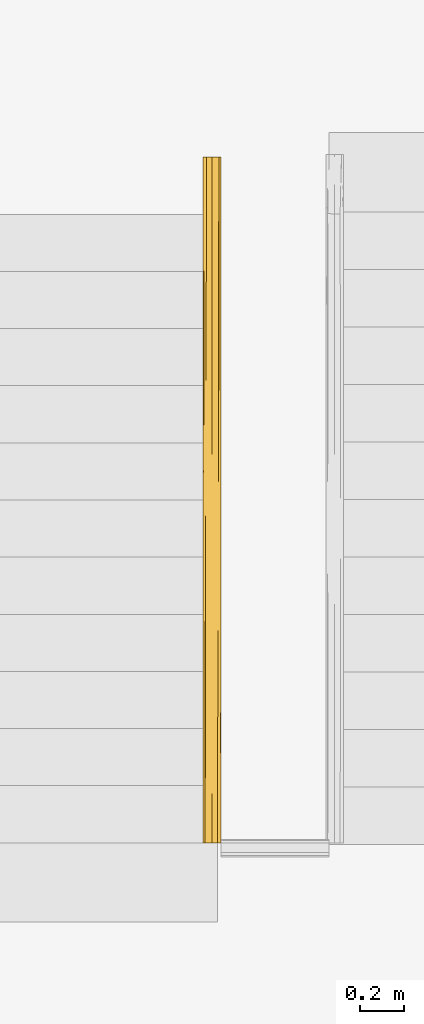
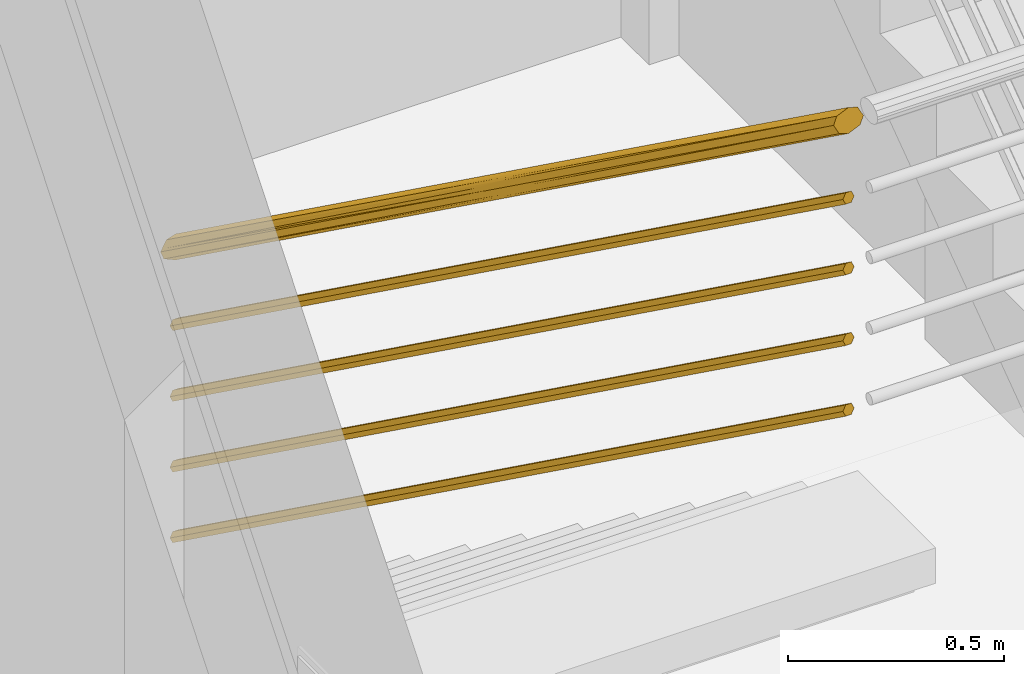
# One storey, part 253 of 302: 1 railing, 1 element without a shape of its own.
"""IFC2X3 building model written with IfcOpenShell, lengths in metres."""

from ifc_helpers import new_model, entity, si_unit, converted_unit, derived_unit, direction, frame, origin, place, context, subcontext, project, spatial, faceted_brep, element, aggregate, save


model = new_model("IFC2X3")

# Units and contexts
model_context = context("Model", 3, precision=1e-05, world=origin(), true_north=direction((6.12303176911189e-17, 1.0)))
body_context = subcontext(model_context, "Body", "Model", "MODEL_VIEW")
ifc_project = project(units=[si_unit("LENGTHUNIT", "METRE"), si_unit("AREAUNIT", "SQUARE_METRE"), si_unit("VOLUMEUNIT", "CUBIC_METRE"), converted_unit("PLANEANGLEUNIT", "DEGREE", entity("IfcRatioMeasure", 0.0174532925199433), si_unit("PLANEANGLEUNIT", "RADIAN"), dimensions=[0, 0, 0, 0, 0, 0, 0]), si_unit("MASSUNIT", "GRAM", prefix="KILO"), derived_unit("MASSDENSITYUNIT", [(si_unit("MASSUNIT", "GRAM", prefix="KILO"), 1), (si_unit("LENGTHUNIT", "METRE"), -3)]), derived_unit("MOMENTOFINERTIAUNIT", [(si_unit("LENGTHUNIT", "METRE"), 4)]), si_unit("TIMEUNIT", "SECOND"), si_unit("FREQUENCYUNIT", "HERTZ"), si_unit("THERMODYNAMICTEMPERATUREUNIT", "DEGREE_CELSIUS"), derived_unit("THERMALTRANSMITTANCEUNIT", [(si_unit("MASSUNIT", "GRAM", prefix="KILO"), 1), (si_unit("THERMODYNAMICTEMPERATUREUNIT", "KELVIN"), -1), (si_unit("TIMEUNIT", "SECOND"), -3)]), derived_unit("VOLUMETRICFLOWRATEUNIT", [(si_unit("LENGTHUNIT", "METRE"), 3), (si_unit("TIMEUNIT", "SECOND"), -1)]), si_unit("ELECTRICCURRENTUNIT", "AMPERE"), si_unit("ELECTRICVOLTAGEUNIT", "VOLT"), si_unit("POWERUNIT", "WATT"), si_unit("FORCEUNIT", "NEWTON", prefix="KILO"), si_unit("ILLUMINANCEUNIT", "LUX"), si_unit("LUMINOUSFLUXUNIT", "LUMEN"), si_unit("LUMINOUSINTENSITYUNIT", "CANDELA"), derived_unit("USERDEFINED", [(si_unit("MASSUNIT", "GRAM", prefix="KILO"), -1), (si_unit("LENGTHUNIT", "METRE"), -2), (si_unit("TIMEUNIT", "SECOND"), 3), (si_unit("LUMINOUSFLUXUNIT", "LUMEN"), 1)]), derived_unit("LINEARVELOCITYUNIT", [(si_unit("LENGTHUNIT", "METRE"), 1), (si_unit("TIMEUNIT", "SECOND"), -1)]), si_unit("PRESSUREUNIT", "PASCAL"), derived_unit("USERDEFINED", [(si_unit("LENGTHUNIT", "METRE"), -2), (si_unit("MASSUNIT", "GRAM", prefix="KILO"), 1), (si_unit("TIMEUNIT", "SECOND"), -2)]), derived_unit("LINEARFORCEUNIT", [(si_unit("MASSUNIT", "GRAM", prefix="KILO"), 1), (si_unit("LENGTHUNIT", "METRE"), 1), (si_unit("TIMEUNIT", "SECOND"), -2), (si_unit("LENGTHUNIT", "METRE"), -1)]), derived_unit("PLANARFORCEUNIT", [(si_unit("MASSUNIT", "GRAM", prefix="KILO"), 1), (si_unit("LENGTHUNIT", "METRE"), 1), (si_unit("TIMEUNIT", "SECOND"), -2), (si_unit("LENGTHUNIT", "METRE"), -2)])], contexts=[model_context])

# Site, building, storey
site_placement = place(None, origin())
site = spatial("IfcSite", under=ifc_project, at=site_placement, Name="Default", CompositionType="ELEMENT")
building_placement = place(site_placement, origin())
building = spatial("IfcBuilding", under=site, at=building_placement, CompositionType="ELEMENT")
storey_placement = place(building_placement, frame((0.0, 0.0, -1.3)))
storey = spatial("IfcBuildingStorey", under=building, at=storey_placement, Name="00_EG", CompositionType="ELEMENT", Elevation=-1.3)

# Stair, railing
stair_placement = place(storey_placement, origin())
stair = element("IfcStair", 1, at=stair_placement, inside=storey, Name="Fertigbetontreppe:Treppe", ObjectType="Fertigbetontreppe:Precast Stair", ShapeType="STRAIGHT_RUN_STAIR")
railing_placement = place(stair_placement, frame((-264.984147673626, 16.748088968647, 1.43141747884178)))
railing = element("IfcRailing", 2, at=railing_placement, Name="Geländer:E2_6_Railing_metal_1000", ObjectType="Geländer:E2_6_Railing_metal_1000", PredefinedType="NOTDEFINED", context=body_context, shape_type="Brep", body=[
    faceted_brep([(0.0665348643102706, 3.12000000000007, 0.809664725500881), (0.05406506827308, 3.12000000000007, 0.805629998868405), (0.0484624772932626, 3.12000000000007, 0.803817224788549), (0.0415952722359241, 3.12000000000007, 0.801595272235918), (0.0337769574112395, 3.12000000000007, 0.805076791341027), (0.0259586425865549, 3.12000000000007, 0.808558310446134), (0.018140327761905, 3.12000000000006, 0.812039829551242), (0.0103220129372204, 3.12000000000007, 0.815521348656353), (0.00595864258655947, 3.12000000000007, 0.827051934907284), (0.00399820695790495, 3.12000000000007, 0.832232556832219), (0.00159527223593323, 3.12000000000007, 0.838582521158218), (0.005360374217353, 3.12000000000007, 0.845811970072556), (0.00912547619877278, 3.12000000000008, 0.853041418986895), (0.0128905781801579, 3.12000000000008, 0.860270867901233), (0.0166556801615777, 3.12000000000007, 0.867500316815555), (0.0291254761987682, 3.12000000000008, 0.871535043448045), (0.0347280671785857, 3.12000000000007, 0.873347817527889), (0.0415952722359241, 3.12000000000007, 0.875569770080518), (0.0494135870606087, 3.12000000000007, 0.872088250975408), (0.0572319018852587, 3.12000000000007, 0.868606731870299), (0.0650502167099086, 3.12000000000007, 0.865125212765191), (0.0728685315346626, 3.12000000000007, 0.861643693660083), (0.0772319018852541, 3.12000000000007, 0.85011310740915), (0.079192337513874, 3.12000000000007, 0.844932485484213), (0.081595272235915, 3.12000000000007, 0.838582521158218), (0.0778301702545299, 3.12000000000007, 0.831353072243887), (0.0740650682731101, 3.12000000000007, 0.824123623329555), (0.0702999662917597, 3.12000000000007, 0.816894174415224), (0.0166556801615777, 0.0, 3.05966472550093), (0.0291254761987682, 0.0, 3.05562999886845), (0.0415952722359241, 0.0, 3.05159527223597), (0.0494135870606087, 0.0, 3.05507679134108), (0.0572319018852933, 0.0, 3.05855831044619), (0.0650502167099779, 0.0, 3.0620398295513), (0.0728685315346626, 0.0, 3.0655213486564), (0.0772319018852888, 0.0, 3.07705193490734), (0.081595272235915, 0.0, 3.08858252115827), (0.0778301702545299, 0.0, 3.0958119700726), (0.0740650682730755, 0.0, 3.10304141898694), (0.0702999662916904, 0.0, 3.11027086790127), (0.0665348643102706, 0.0, 3.1175003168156), (0.05406506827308, 0.0, 3.12153504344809), (0.0415952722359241, 0.0, 3.12556977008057), (0.0337769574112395, 0.0, 3.12208825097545), (0.0259586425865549, 0.0, 3.11860673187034), (0.0181403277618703, 0.0, 3.11512521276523), (0.0103220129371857, 0.0, 3.11164369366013), (0.00595864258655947, 0.0, 3.10011310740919), (0.00159527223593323, 0.0, 3.08858252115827), (0.005360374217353, 0.0, 3.08135307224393), (0.00912547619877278, 0.0, 3.0741236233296), (0.0128905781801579, 0.0, 3.06689417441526), (0.0755027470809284, 1.55105130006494, 1.95041428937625), (0.0793461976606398, 1.69154379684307, 1.85649145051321), (0.081595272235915, 1.62045552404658, 1.91998478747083), (0.081595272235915, 1.49954877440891, 2.00717715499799), (0.0629715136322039, 1.55832414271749, 1.93352841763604), (0.0556966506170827, 1.48225344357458, 1.98503712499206), (0.0698845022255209, 1.55820923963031, 1.93872458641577), (0.0487595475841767, 1.41323270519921, 2.03303516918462), (0.0415952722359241, 1.49954983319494, 1.97018914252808), (0.0415952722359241, 1.62045552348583, 1.88299753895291), (0.0283901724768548, 1.69083498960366, 1.83431675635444), (0.0203857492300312, 1.54913990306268, 1.94005472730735), (0.0133159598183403, 1.56074565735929, 1.93688626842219), (0.00416749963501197, 1.48433946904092, 2.00509586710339), (0.00778723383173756, 1.56123681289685, 1.94292280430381), (0.00224337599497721, 1.41636359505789, 2.06053525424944), (0.00159527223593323, 1.49953972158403, 2.00718368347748), (0.00159527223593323, 1.62045552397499, 1.91998478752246), (0.0038355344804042, 1.6924923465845, 1.88023962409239), (0.00768123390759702, 1.55043223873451, 1.99009426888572), (0.0133007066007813, 1.56178840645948, 1.98843721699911), (0.0201983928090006, 1.56167013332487, 1.9936286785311), (0.0274586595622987, 1.48736068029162, 2.05056697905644), (0.034411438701, 1.42065233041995, 2.10045948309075), (0.0415952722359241, 1.49954679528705, 2.04416583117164), (0.0415952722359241, 1.6204555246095, 1.95697203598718), (0.0628150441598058, 1.55234848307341, 2.00045410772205), (0.0548125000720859, 1.69320962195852, 1.90242757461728), (0.0753924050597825, 1.55877075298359, 1.98425272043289), (0.0790180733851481, 1.48529283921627, 2.03051959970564), (0.0809461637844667, 1.41754763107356, 2.07294890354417), (0.0698692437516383, 1.55925667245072, 1.99028202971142)], [[[0, 1, 2, 3, 4, 5, 6, 7, 8, 9, 10, 11, 12, 13, 14, 15, 16, 17, 18, 19, 20, 21, 22, 23, 24, 25, 26, 27]], [[28, 29, 30, 31, 32, 33, 34, 35, 36, 37, 38, 39, 40, 41, 42, 43, 44, 45, 46, 47, 48, 49, 50, 51]], [[52, 53, 35]], [[35, 54, 55, 36]], [[56, 57, 1]], [[26, 25, 53]], [[57, 56, 32]], [[53, 25, 54]], [[24, 54, 25]], [[52, 58, 27]], [[26, 53, 52]], [[31, 30, 59]], [[35, 53, 54]], [[56, 58, 33]], [[34, 52, 35]], [[27, 26, 52]], [[34, 58, 52]], [[33, 58, 34]], [[27, 58, 0]], [[0, 58, 56]], [[0, 56, 1]], [[56, 33, 32]], [[31, 59, 57]], [[2, 60, 61, 3]], [[59, 60, 2]], [[57, 32, 31]], [[2, 1, 59]], [[1, 57, 59]], [[60, 59, 30]], [[5, 4, 62]], [[4, 3, 61]], [[63, 64, 6]], [[62, 4, 61]], [[65, 66, 50]], [[5, 62, 63]], [[63, 62, 29]], [[64, 66, 7]], [[29, 61, 60, 30]], [[51, 66, 64]], [[29, 62, 61]], [[6, 64, 7]], [[28, 63, 29]], [[6, 5, 63]], [[28, 51, 64]], [[66, 65, 8]], [[28, 64, 63]], [[7, 66, 8]], [[49, 48, 67]], [[66, 51, 50]], [[49, 67, 65]], [[9, 68, 69, 10]], [[67, 68, 9]], [[65, 50, 49]], [[9, 8, 67]], [[8, 65, 67]], [[68, 67, 48]], [[12, 11, 70]], [[11, 10, 69]], [[71, 72, 13]], [[45, 73, 72]], [[74, 73, 44]], [[70, 11, 69]], [[12, 70, 71]], [[72, 73, 14]], [[47, 69, 68, 48]], [[71, 70, 47]], [[47, 70, 69]], [[13, 72, 14]], [[46, 71, 47]], [[13, 12, 71]], [[46, 45, 72]], [[73, 74, 15]], [[46, 72, 71]], [[14, 73, 15]], [[43, 42, 75]], [[73, 45, 44]], [[43, 75, 74]], [[16, 76, 77, 17]], [[75, 76, 16]], [[74, 44, 43]], [[16, 15, 75]], [[15, 74, 75]], [[76, 75, 42]], [[78, 79, 41]], [[41, 77, 76, 42]], [[80, 81, 22]], [[37, 36, 82]], [[81, 80, 38]], [[19, 18, 79]], [[79, 18, 77]], [[78, 83, 20]], [[19, 79, 78]], [[17, 77, 18]], [[41, 79, 77]], [[80, 83, 39]], [[40, 78, 41]], [[20, 19, 78]], [[40, 83, 78]], [[39, 83, 40]], [[20, 83, 21]], [[21, 83, 80]], [[21, 80, 22]], [[80, 39, 38]], [[37, 82, 81]], [[23, 55, 54, 24]], [[82, 55, 23]], [[81, 38, 37]], [[23, 22, 82]], [[22, 81, 82]], [[55, 82, 36]]]),
    faceted_brep([(0.0509702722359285, 3.12000000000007, 0.632100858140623), (0.0528452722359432, 3.12000000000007, 0.62809687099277), (0.0551929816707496, 3.12000000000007, 0.623083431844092), (0.056595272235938, 3.12000000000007, 0.620088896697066), (0.054720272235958, 3.12000000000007, 0.616084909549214), (0.0528452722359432, 3.12000000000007, 0.612080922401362), (0.0509702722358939, 3.12000000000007, 0.608076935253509), (0.0490952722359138, 3.12000000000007, 0.604072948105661), (0.045345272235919, 3.12000000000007, 0.604072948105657), (0.0415952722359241, 3.12000000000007, 0.604072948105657), (0.0378452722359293, 3.12000000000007, 0.604072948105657), (0.0340952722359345, 3.12000000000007, 0.604072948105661), (0.0322202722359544, 3.12000000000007, 0.608076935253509), (0.030345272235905, 3.12000000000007, 0.612080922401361), (0.0284702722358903, 3.12000000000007, 0.616084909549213), (0.0265952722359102, 3.12000000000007, 0.620088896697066), (0.0279975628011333, 3.12000000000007, 0.623083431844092), (0.0293998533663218, 3.12000000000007, 0.626077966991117), (0.0317475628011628, 3.12000000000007, 0.631091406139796), (0.0340952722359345, 3.12000000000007, 0.636104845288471), (0.037845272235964, 3.12000000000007, 0.636104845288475), (0.0415952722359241, 3.12000000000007, 0.636104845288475), (0.0453452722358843, 3.12000000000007, 0.636104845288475), (0.0490952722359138, 3.12000000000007, 0.636104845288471), (0.0340952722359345, 0.0, 2.88610484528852), (0.0322202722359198, 0.0, 2.88210085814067), (0.030345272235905, 0.0, 2.87809687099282), (0.028470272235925, 0.0, 2.87409288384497), (0.0265952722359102, 0.0, 2.87008889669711), (0.0279975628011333, 0.0, 2.86709436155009), (0.030345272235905, 0.0, 2.86208092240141), (0.0322202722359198, 0.0, 2.85807693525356), (0.0340952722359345, 0.0, 2.85407294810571), (0.037845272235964, 0.0, 2.85407294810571), (0.0415952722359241, 0.0, 2.85407294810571), (0.0453452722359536, 0.0, 2.85407294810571), (0.0490952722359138, 0.0, 2.85407294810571), (0.0514429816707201, 0.0, 2.85908638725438), (0.0537906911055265, 0.0, 2.86409982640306), (0.0551929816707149, 0.0, 2.86709436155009), (0.056595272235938, 0.0, 2.87008889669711), (0.0547202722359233, 0.0, 2.87409288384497), (0.0528452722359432, 0.0, 2.87809687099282), (0.0509702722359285, 0.0, 2.88210085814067), (0.0490952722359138, 0.0, 2.88610484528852), (0.0453452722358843, 0.0, 2.88610484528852), (0.0415952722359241, 0.0, 2.88610484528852), (0.037845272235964, 0.0, 2.88610484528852)], [[[0, 1, 2, 3, 4, 5, 6, 7, 8, 9, 10, 11, 12, 13, 14, 15, 16, 17, 18, 19, 20, 21, 22, 23]], [[24, 25, 26, 27, 28, 29, 30, 31, 32, 33, 34, 35, 36, 37, 38, 39, 40, 41, 42, 43, 44, 45, 46, 47]], [[19, 18, 17, 16, 15, 28, 27, 26, 25, 24]], [[1, 0, 23, 44, 43, 42, 41, 40, 3, 2]], [[21, 20, 19, 24, 47, 46, 45, 44, 23, 22]], [[36, 7, 6, 5, 4, 3, 40, 39, 38, 37]], [[33, 32, 11, 10, 9, 8, 7, 36, 35, 34]], [[29, 28, 15, 14, 13, 12, 11, 32, 31, 30]]]),
    faceted_brep([(0.0509702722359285, 3.12000000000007, 0.432100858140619), (0.0528452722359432, 3.12000000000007, 0.428096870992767), (0.0551929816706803, 3.12000000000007, 0.423083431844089), (0.056595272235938, 3.12000000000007, 0.420088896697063), (0.054720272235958, 3.12000000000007, 0.416084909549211), (0.0528452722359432, 3.12000000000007, 0.412080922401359), (0.0509702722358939, 3.12000000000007, 0.408076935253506), (0.0490952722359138, 3.12000000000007, 0.404072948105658), (0.045345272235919, 3.12000000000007, 0.404072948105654), (0.0415952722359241, 3.12000000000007, 0.404072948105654), (0.0378452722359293, 3.12000000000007, 0.404072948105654), (0.0340952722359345, 3.12000000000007, 0.404072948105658), (0.0322202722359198, 3.12000000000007, 0.408076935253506), (0.030345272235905, 3.12000000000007, 0.412080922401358), (0.0284702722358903, 3.12000000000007, 0.416084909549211), (0.0265952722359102, 3.12000000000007, 0.420088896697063), (0.0279975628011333, 3.12000000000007, 0.423083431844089), (0.0293998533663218, 3.12000000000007, 0.426077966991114), (0.0317475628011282, 3.12000000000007, 0.431091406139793), (0.0340952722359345, 3.12000000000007, 0.436104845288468), (0.037845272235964, 3.12000000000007, 0.436104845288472), (0.0415952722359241, 3.12000000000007, 0.436104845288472), (0.0453452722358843, 3.12000000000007, 0.436104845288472), (0.0490952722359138, 3.12000000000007, 0.436104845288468), (0.0322202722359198, 0.0, 2.68210085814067), (0.030345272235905, 0.0, 2.67809687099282), (0.028470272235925, 0.0, 2.67409288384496), (0.0265952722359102, 0.0, 2.67008889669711), (0.0279975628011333, 0.0, 2.66709436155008), (0.030345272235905, 0.0, 2.66208092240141), (0.0322202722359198, 0.0, 2.65807693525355), (0.0340952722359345, 0.0, 2.65407294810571), (0.037845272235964, 0.0, 2.6540729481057), (0.0415952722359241, 0.0, 2.6540729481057), (0.0453452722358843, 0.0, 2.6540729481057), (0.0490952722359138, 0.0, 2.65407294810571), (0.0514429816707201, 0.0, 2.65908638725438), (0.0537906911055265, 0.0, 2.66409982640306), (0.0551929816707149, 0.0, 2.66709436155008), (0.056595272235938, 0.0, 2.67008889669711), (0.054720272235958, 0.0, 2.67409288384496), (0.0528452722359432, 0.0, 2.67809687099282), (0.0509702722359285, 0.0, 2.68210085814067), (0.0490952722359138, 0.0, 2.68610484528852), (0.045345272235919, 0.0, 2.68610484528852), (0.0415952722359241, 0.0, 2.68610484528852), (0.0378452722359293, 0.0, 2.68610484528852), (0.0340952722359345, 0.0, 2.68610484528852)], [[[0, 1, 2, 3, 4, 5, 6, 7, 8, 9, 10, 11, 12, 13, 14, 15, 16, 17, 18, 19, 20, 21, 22, 23]], [[24, 25, 26, 27, 28, 29, 30, 31, 32, 33, 34, 35, 36, 37, 38, 39, 40, 41, 42, 43, 44, 45, 46, 47]], [[19, 18, 17, 16, 15, 27, 26, 25, 24, 47]], [[1, 0, 23, 43, 42, 41, 40, 39, 3, 2]], [[21, 20, 19, 47, 46, 45, 44, 43, 23, 22]], [[35, 7, 6, 5, 4, 3, 39, 38, 37, 36]], [[32, 31, 11, 10, 9, 8, 7, 35, 34, 33]], [[28, 27, 15, 14, 13, 12, 11, 31, 30, 29]]]),
    faceted_brep([(0.0509702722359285, 3.12000000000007, 0.232100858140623), (0.0528452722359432, 3.12000000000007, 0.228096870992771), (0.0551929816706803, 3.12000000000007, 0.223083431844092), (0.056595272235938, 3.12000000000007, 0.220088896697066), (0.054720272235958, 3.12000000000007, 0.216084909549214), (0.0528452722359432, 3.12000000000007, 0.212080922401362), (0.0509702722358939, 3.12000000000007, 0.20807693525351), (0.0490952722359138, 3.12000000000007, 0.204072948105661), (0.045345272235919, 3.12000000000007, 0.204072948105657), (0.0415952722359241, 3.12000000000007, 0.204072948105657), (0.0378452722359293, 3.12000000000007, 0.204072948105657), (0.0340952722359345, 3.12000000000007, 0.204072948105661), (0.0322202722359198, 3.12000000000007, 0.208076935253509), (0.030345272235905, 3.12000000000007, 0.212080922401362), (0.0284702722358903, 3.12000000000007, 0.216084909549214), (0.0265952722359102, 3.12000000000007, 0.220088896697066), (0.0279975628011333, 3.12000000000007, 0.223083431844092), (0.0293998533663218, 3.12000000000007, 0.226077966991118), (0.0317475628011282, 3.12000000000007, 0.231091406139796), (0.0340952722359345, 3.12000000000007, 0.236104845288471), (0.037845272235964, 3.12000000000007, 0.236104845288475), (0.0415952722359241, 3.12000000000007, 0.236104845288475), (0.0453452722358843, 3.12000000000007, 0.236104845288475), (0.0490952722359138, 3.12000000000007, 0.236104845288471), (0.0340952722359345, 0.0, 2.48610484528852), (0.0322202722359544, 0.0, 2.48210085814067), (0.030345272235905, 0.0, 2.47809687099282), (0.0284702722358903, 0.0, 2.47409288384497), (0.0265952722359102, 0.0, 2.47008889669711), (0.0279975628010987, 0.0, 2.46709436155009), (0.030345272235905, 0.0, 2.46208092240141), (0.0322202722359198, 0.0, 2.45807693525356), (0.0340952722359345, 0.0, 2.45407294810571), (0.037845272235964, 0.0, 2.45407294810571), (0.0415952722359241, 0.0, 2.45407294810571), (0.0453452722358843, 0.0, 2.45407294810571), (0.0490952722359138, 0.0, 2.45407294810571), (0.0514429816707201, 0.0, 2.45908638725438), (0.0537906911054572, 0.0, 2.46409982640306), (0.0551929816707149, 0.0, 2.46709436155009), (0.056595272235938, 0.0, 2.47008889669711), (0.054720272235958, 0.0, 2.47409288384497), (0.0528452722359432, 0.0, 2.47809687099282), (0.0509702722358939, 0.0, 2.48210085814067), (0.0490952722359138, 0.0, 2.48610484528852), (0.0453452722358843, 0.0, 2.48610484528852), (0.0415952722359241, 0.0, 2.48610484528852), (0.037845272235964, 0.0, 2.48610484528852)], [[[0, 1, 2, 3, 4, 5, 6, 7, 8, 9, 10, 11, 12, 13, 14, 15, 16, 17, 18, 19, 20, 21, 22, 23]], [[24, 25, 26, 27, 28, 29, 30, 31, 32, 33, 34, 35, 36, 37, 38, 39, 40, 41, 42, 43, 44, 45, 46, 47]], [[19, 18, 17, 16, 15, 28, 27, 26, 25, 24]], [[1, 0, 23, 44, 43, 42, 41, 40, 3, 2]], [[21, 20, 19, 24, 47, 46, 45, 44, 23, 22]], [[36, 7, 6, 5, 4, 3, 40, 39, 38, 37]], [[33, 32, 11, 10, 9, 8, 7, 36, 35, 34]], [[29, 28, 15, 14, 13, 12, 11, 32, 31, 30]]]),
    faceted_brep([(0.0509702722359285, 3.12000000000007, 0.0321008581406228), (0.0528452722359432, 3.12000000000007, 0.0280968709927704), (0.0551929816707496, 3.12000000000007, 0.023083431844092), (0.056595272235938, 3.12000000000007, 0.0200888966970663), (0.054720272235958, 3.12000000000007, 0.016084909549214), (0.0528452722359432, 3.12000000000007, 0.0120809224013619), (0.0509702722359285, 3.12000000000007, 0.00807693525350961), (0.0490952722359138, 3.12000000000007, 0.00407294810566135), (0.0453452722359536, 3.12000000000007, 0.00407294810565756), (0.0415952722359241, 3.12000000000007, 0.00407294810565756), (0.037845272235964, 3.12000000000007, 0.00407294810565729), (0.0340952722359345, 3.12000000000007, 0.00407294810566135), (0.0322202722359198, 3.12000000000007, 0.00807693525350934), (0.030345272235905, 3.12000000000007, 0.0120809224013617), (0.0284702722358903, 3.12000000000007, 0.0160849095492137), (0.0265952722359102, 3.12000000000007, 0.0200888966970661), (0.0279975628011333, 3.12000000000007, 0.023083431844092), (0.0293998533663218, 3.12000000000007, 0.0260779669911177), (0.0317475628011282, 3.12000000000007, 0.0310914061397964), (0.0340952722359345, 3.12000000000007, 0.0361048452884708), (0.0378452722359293, 3.12000000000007, 0.0361048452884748), (0.0415952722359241, 3.12000000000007, 0.0361048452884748), (0.045345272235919, 3.12000000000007, 0.0361048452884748), (0.0490952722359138, 3.12000000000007, 0.036104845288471), (0.0340952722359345, 0.0, 2.28610484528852), (0.0322202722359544, 0.0, 2.28210085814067), (0.030345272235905, 0.0, 2.27809687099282), (0.0284702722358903, 0.0, 2.27409288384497), (0.0265952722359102, 0.0, 2.27008889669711), (0.0279975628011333, 0.0, 2.26709436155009), (0.030345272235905, 0.0, 2.26208092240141), (0.0322202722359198, 0.0, 2.25807693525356), (0.0340952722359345, 0.0, 2.25407294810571), (0.0378452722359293, 0.0, 2.25407294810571), (0.0415952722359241, 0.0, 2.25407294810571), (0.045345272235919, 0.0, 2.2540729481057), (0.0490952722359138, 0.0, 2.25407294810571), (0.0514429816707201, 0.0, 2.25908638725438), (0.0537906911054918, 0.0, 2.26409982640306), (0.0551929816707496, 0.0, 2.26709436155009), (0.056595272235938, 0.0, 2.27008889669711), (0.054720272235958, 0.0, 2.27409288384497), (0.0528452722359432, 0.0, 2.27809687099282), (0.0509702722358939, 0.0, 2.28210085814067), (0.0490952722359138, 0.0, 2.28610484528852), (0.0453452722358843, 0.0, 2.28610484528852), (0.0415952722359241, 0.0, 2.28610484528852), (0.037845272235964, 0.0, 2.28610484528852)], [[[0, 1, 2, 3, 4, 5, 6, 7, 8, 9, 10, 11, 12, 13, 14, 15, 16, 17, 18, 19, 20, 21, 22, 23]], [[24, 25, 26, 27, 28, 29, 30, 31, 32, 33, 34, 35, 36, 37, 38, 39, 40, 41, 42, 43, 44, 45, 46, 47]], [[19, 18, 17, 16, 15, 28, 27, 26, 25, 24]], [[1, 0, 23, 44, 43, 42, 41, 40, 3, 2]], [[21, 20, 19, 24, 47, 46, 45, 44, 23, 22]], [[36, 7, 6, 5, 4, 3, 40, 39, 38, 37]], [[33, 32, 11, 10, 9, 8, 7, 36, 35, 34]], [[29, 28, 15, 14, 13, 12, 11, 32, 31, 30]]]),
])
aggregate(stair, [railing])

save(model, "model.ifc")
